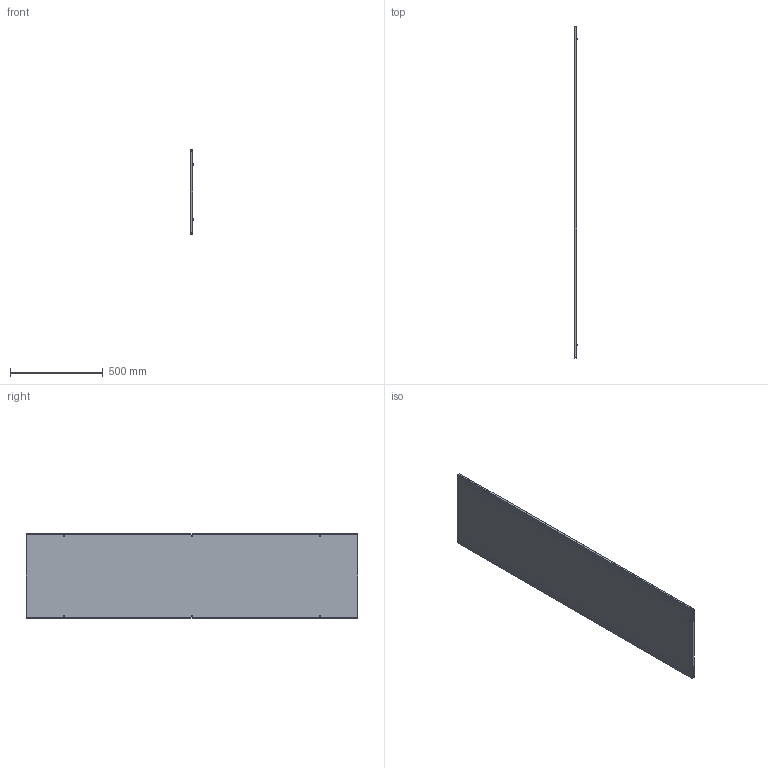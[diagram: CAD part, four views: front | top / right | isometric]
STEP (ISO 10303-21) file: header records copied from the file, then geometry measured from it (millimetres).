
FILE_DESCRIPTION(('STEP AP203'), '1');
FILE_NAME('Ïàíåëü áîêîâàÿ 1800õ500 ìì IP55 OptiBox M (2 øò) 419651 ÊÝÀÇ', '', ('UNSPECIFIED'), ('UNSPECIFIED'), 'C3D Converter', 'C3D Toolkit', '');
FILE_SCHEMA(('CONFIG_CONTROL_DESIGN'));
Length unit declared in the file: millimetre
Bounding box: 18.9 x 1786 x 453 mm (x, y, z)
Volume: 1605278.4 mm3; surface area: 1903186.4 mm2
Topology: 4 solids, 4 shells, 135 faces, 278 edges, 164 vertices
Faces by surface type: plane 77, cylinder 50, bspline 8
Full cylindrical faces by diameter (mm): 0.75 x2, 1 x2, 6.3 x6, 8 x2, 9.3 x2, 13 x2, 13.5 x6
Entity records: 5656 total; most frequent: CARTESIAN_POINT 1932, DIRECTION 544, ORIENTED_EDGE 512, EDGE_CURVE 256, AXIS2_PLACEMENT_3D 196, EDGE_LOOP 184, VERTEX_POINT 164, LINE 152
